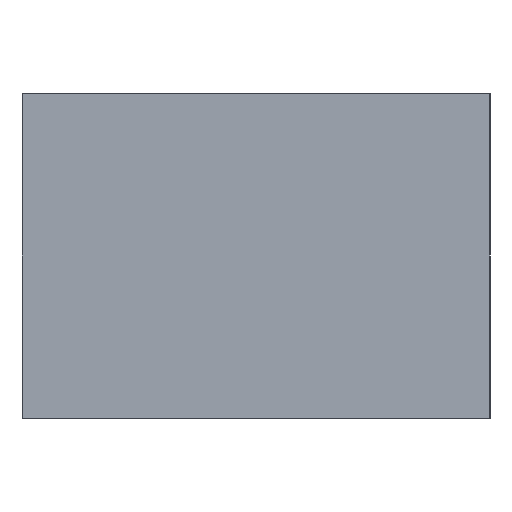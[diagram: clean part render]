
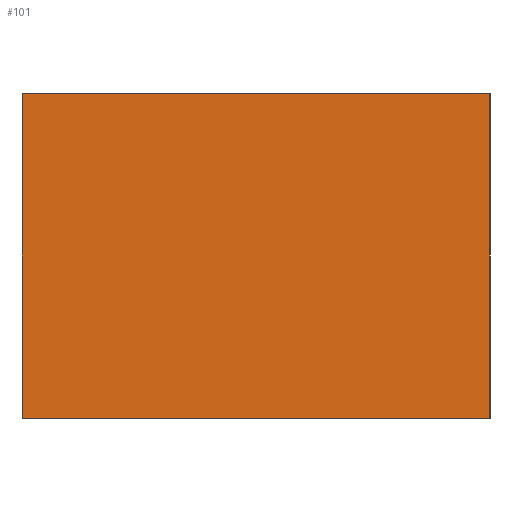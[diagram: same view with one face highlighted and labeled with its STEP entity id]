
A CAD part, left-side view. The second image highlights one B-rep face of the part: STEP entity #101.
In plain terms, the highlighted planar face has unit normal (-1, 0, 0).
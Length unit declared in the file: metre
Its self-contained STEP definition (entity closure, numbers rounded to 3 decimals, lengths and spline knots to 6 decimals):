
#24=ORIENTED_EDGE('',*,*,#46,.T.);
#25=ORIENTED_EDGE('',*,*,#37,.F.);
#26=ORIENTED_EDGE('',*,*,#47,.F.);
#27=ORIENTED_EDGE('',*,*,#42,.T.);
#37=EDGE_CURVE('',#48,#50,#57,.T.);
#42=EDGE_CURVE('',#55,#54,#62,.T.);
#46=EDGE_CURVE('',#54,#50,#66,.T.);
#47=EDGE_CURVE('',#55,#48,#67,.T.);
#48=VERTEX_POINT('',#152);
#50=VERTEX_POINT('',#155);
#54=VERTEX_POINT('',#164);
#55=VERTEX_POINT('',#166);
#57=LINE('',#154,#69);
#62=LINE('',#165,#74);
#66=LINE('',#172,#78);
#67=LINE('',#173,#79);
#69=VECTOR('',#128,1.);
#74=VECTOR('',#135,1.);
#78=VECTOR('',#143,1.);
#79=VECTOR('',#144,1.);
#83=EDGE_LOOP('',(#24,#25,#26,#27));
#89=FACE_BOUND('',#83,.T.);
#95=PLANE('',#120);
#101=ADVANCED_FACE('',(#89),#95,.F.);
#120=AXIS2_PLACEMENT_3D('',#171,#141,#142);
#128=DIRECTION('',(0.,-1.,0.));
#135=DIRECTION('',(0.,-1.,0.));
#141=DIRECTION('',(1.,0.,0.));
#142=DIRECTION('',(0.,0.,1.));
#143=DIRECTION('',(0.,0.,1.));
#144=DIRECTION('',(0.,0.,1.));
#152=CARTESIAN_POINT('',(0.1479,-0.120195,0.002435));
#154=CARTESIAN_POINT('',(0.1479,-0.120195,0.002435));
#155=CARTESIAN_POINT('',(0.1479,-0.121405,0.002435));
#164=CARTESIAN_POINT('',(0.1479,-0.121405,0.001595));
#165=CARTESIAN_POINT('',(0.1479,-0.120195,0.001595));
#166=CARTESIAN_POINT('',(0.1479,-0.120195,0.001595));
#171=CARTESIAN_POINT('',(0.1479,-0.120195,0.001595));
#172=CARTESIAN_POINT('',(0.1479,-0.121405,0.001595));
#173=CARTESIAN_POINT('',(0.1479,-0.120195,0.001595));
